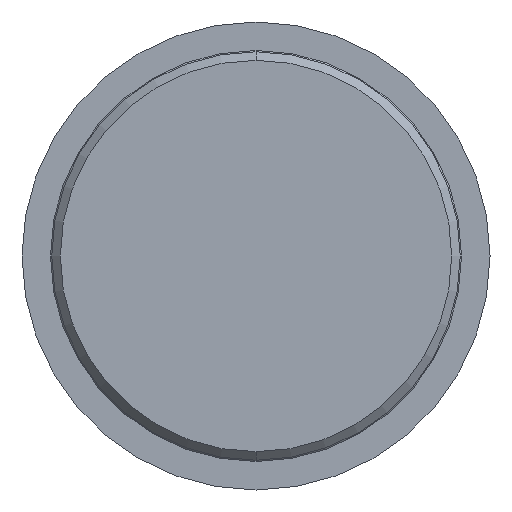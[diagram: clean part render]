
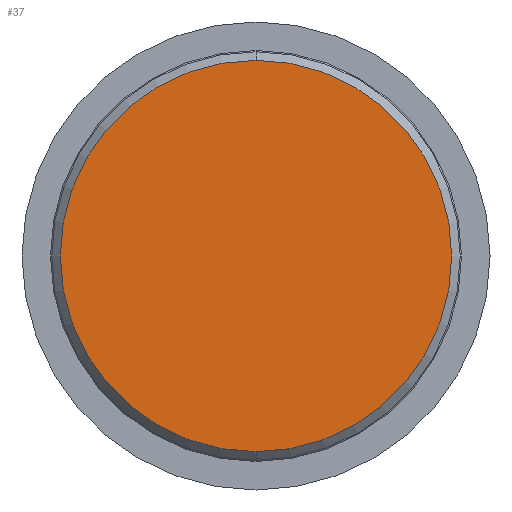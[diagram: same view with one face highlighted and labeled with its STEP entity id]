
A CAD part, front view. The second image highlights one B-rep face of the part: STEP entity #37.
In plain terms, the highlighted planar face has unit normal (0, -1, 0).
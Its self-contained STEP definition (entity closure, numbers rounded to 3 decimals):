
#11 = CARTESIAN_POINT ( 'NONE',  ( 0., 0., 0. ) ) ;
#24 = CIRCLE ( 'NONE', #646, 23. ) ;
#37 = ADVANCED_FACE ( 'NONE', ( #120 ), #457, .F. ) ;
#120 = FACE_OUTER_BOUND ( 'NONE', #326, .T. ) ;
#185 = CARTESIAN_POINT ( 'NONE',  ( 23., 0., 0. ) ) ;
#223 = EDGE_CURVE ( 'NONE', #587, #733, #710, .T. ) ;
#313 = EDGE_CURVE ( 'NONE', #733, #587, #24, .T. ) ;
#326 = EDGE_LOOP ( 'NONE', ( #480, #753 ) ) ;
#396 = CARTESIAN_POINT ( 'NONE',  ( 0., 0., 0. ) ) ;
#399 = AXIS2_PLACEMENT_3D ( 'NONE', #185, #580, #575 ) ;
#417 = CARTESIAN_POINT ( 'NONE',  ( 0., 0., -23. ) ) ;
#454 = AXIS2_PLACEMENT_3D ( 'NONE', #11, #473, #709 ) ;
#457 = PLANE ( 'NONE',  #399 ) ;
#473 = DIRECTION ( 'NONE',  ( 0., 1., 0. ) ) ;
#480 = ORIENTED_EDGE ( 'NONE', *, *, #313, .F. ) ;
#529 = CARTESIAN_POINT ( 'NONE',  ( 0., 0., 23. ) ) ;
#565 = DIRECTION ( 'NONE',  ( 0., 0., 1. ) ) ;
#575 = DIRECTION ( 'NONE',  ( 0., 0., 1. ) ) ;
#580 = DIRECTION ( 'NONE',  ( 0., 1., 0. ) ) ;
#587 = VERTEX_POINT ( 'NONE', #417 ) ;
#646 = AXIS2_PLACEMENT_3D ( 'NONE', #396, #732, #565 ) ;
#709 = DIRECTION ( 'NONE',  ( 0., 0., 1. ) ) ;
#710 = CIRCLE ( 'NONE', #454, 23. ) ;
#732 = DIRECTION ( 'NONE',  ( 0., 1., 0. ) ) ;
#733 = VERTEX_POINT ( 'NONE', #529 ) ;
#753 = ORIENTED_EDGE ( 'NONE', *, *, #223, .F. ) ;
